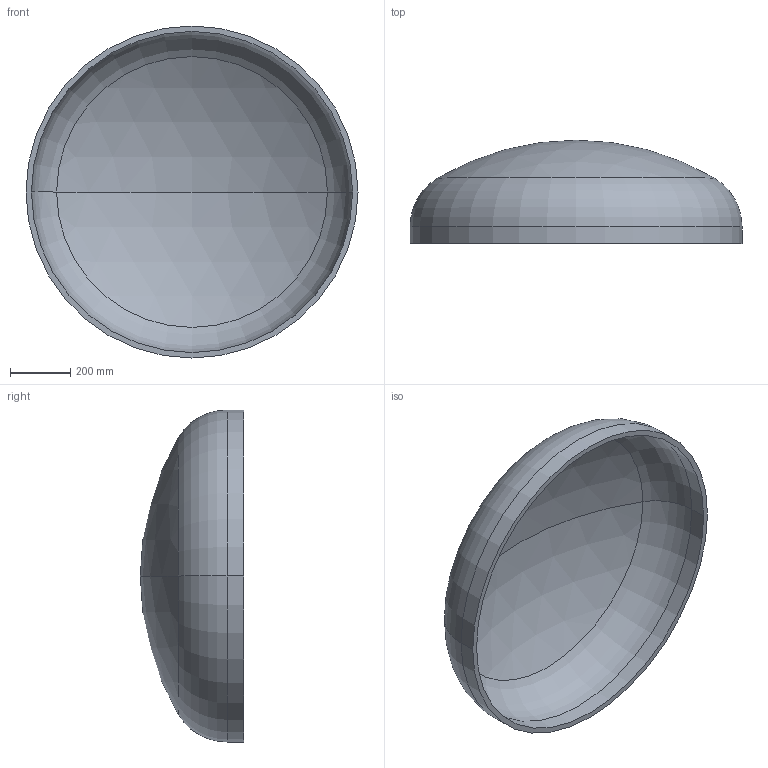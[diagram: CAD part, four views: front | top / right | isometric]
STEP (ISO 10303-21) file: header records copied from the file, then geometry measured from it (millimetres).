
FILE_DESCRIPTION (( 'STEP AP203' ), '1' );
FILE_NAME ('DIN 28013 Korbbogenform_-_Boden DIN 28013 - 1100 x 55 - I - s=18.step', '2016-07-01T09:02:37', ( '' ), ( '' ), 'SwSTEP 2.0', 'SolidWorks 2013', '' );
FILE_SCHEMA (( 'CONFIG_CONTROL_DESIGN' ));
Length unit declared in the file: millimetre
Products named in the file (1): DIN 28013 Korbbogenform_-_Boden DIN 28013 - 1100 x 55 - I - s=18
Bounding box: 1100 x 342.22 x 1100 mm (x, y, z)
Volume: 26566870.4 mm3; surface area: 3013737.7 mm2
Topology: 1 solids, 1 shells, 13 faces, 24 edges, 14 vertices
Faces by surface type: torus 4, cylinder 4, sphere 4, plane 1
Entity records: 407 total; most frequent: DIRECTION 72, CARTESIAN_POINT 52, ORIENTED_EDGE 48, AXIS2_PLACEMENT_3D 34, EDGE_CURVE 24, CIRCLE 20, VERTEX_POINT 14, EDGE_LOOP 14
